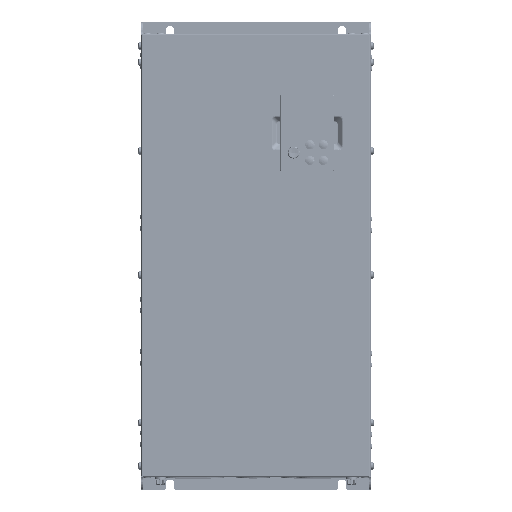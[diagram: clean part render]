
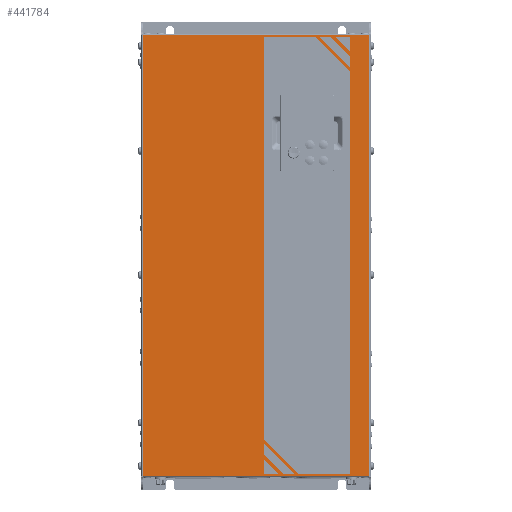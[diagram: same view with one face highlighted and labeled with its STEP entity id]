
A CAD part, top view. The second image highlights one B-rep face of the part: STEP entity #441784.
In plain terms, the highlighted planar face has unit normal (0, 0, 1).
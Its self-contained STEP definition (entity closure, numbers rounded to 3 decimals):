
#438517=DIRECTION('',(0.,-1.,0.));
#438518=VECTOR('',#438517,461.);
#438519=CARTESIAN_POINT('',(-118.8,0.5,257.));
#438520=LINE('',#438519,#438518);
#438831=DIRECTION('',(0.,-1.,0.));
#438832=VECTOR('',#438831,461.);
#438833=CARTESIAN_POINT('',(118.8,0.5,257.));
#438834=LINE('',#438833,#438832);
#438883=DIRECTION('',(-1.,0.,0.));
#438884=VECTOR('',#438883,237.6);
#438885=CARTESIAN_POINT('',(118.8,0.5,257.));
#438886=LINE('',#438885,#438884);
#438890=DIRECTION('',(-1.,0.,0.));
#438891=VECTOR('',#438890,237.6);
#438892=CARTESIAN_POINT('',(118.8,-460.5,257.));
#438893=LINE('',#438892,#438891);
#438897=DIRECTION('',(0.,-1.,0.));
#438898=VECTOR('',#438897,15.);
#438899=CARTESIAN_POINT('',(8.5,-443.5,257.));
#438900=LINE('',#438899,#438898);
#438904=DIRECTION('',(1.,0.,0.));
#438905=VECTOR('',#438904,15.);
#438906=CARTESIAN_POINT('',(8.5,-458.5,257.));
#438907=LINE('',#438906,#438905);
#438911=DIRECTION('',(-0.707,0.707,0.));
#438912=VECTOR('',#438911,21.213);
#438913=CARTESIAN_POINT('',(23.5,-458.5,257.));
#438914=LINE('',#438913,#438912);
#438918=DIRECTION('',(0.,1.,0.));
#438919=VECTOR('',#438918,15.);
#438920=CARTESIAN_POINT('',(98.5,-16.5,257.));
#438921=LINE('',#438920,#438919);
#438925=DIRECTION('',(-1.,0.,0.));
#438926=VECTOR('',#438925,15.);
#438927=CARTESIAN_POINT('',(98.5,-1.5,257.));
#438928=LINE('',#438927,#438926);
#438932=DIRECTION('',(0.707,-0.707,0.));
#438933=VECTOR('',#438932,21.213);
#438934=CARTESIAN_POINT('',(83.5,-1.5,257.));
#438935=LINE('',#438934,#438933);
#438939=DIRECTION('',(-0.707,0.707,0.));
#438940=VECTOR('',#438939,28.213);
#438941=CARTESIAN_POINT('',(98.5,-21.45,257.));
#438942=LINE('',#438941,#438940);
#438946=DIRECTION('',(-1.,0.,0.));
#438947=VECTOR('',#438946,11.314);
#438948=CARTESIAN_POINT('',(78.55,-1.5,257.));
#438949=LINE('',#438948,#438947);
#438953=DIRECTION('',(0.707,-0.707,0.));
#438954=VECTOR('',#438953,44.213);
#438955=CARTESIAN_POINT('',(67.237,-1.5,257.));
#438956=LINE('',#438955,#438954);
#438960=DIRECTION('',(0.,1.,0.));
#438961=VECTOR('',#438960,11.314);
#438962=CARTESIAN_POINT('',(98.5,-32.763,257.));
#438963=LINE('',#438962,#438961);
#438967=DIRECTION('',(-0.707,0.707,0.));
#438968=VECTOR('',#438967,51.213);
#438969=CARTESIAN_POINT('',(98.5,-37.713,257.));
#438970=LINE('',#438969,#438968);
#438974=DIRECTION('',(-1.,0.,0.));
#438975=VECTOR('',#438974,53.787);
#438976=CARTESIAN_POINT('',(62.287,-1.5,257.));
#438977=LINE('',#438976,#438975);
#438981=DIRECTION('',(0.,-1.,0.));
#438982=VECTOR('',#438981,420.787);
#438983=CARTESIAN_POINT('',(8.5,-1.5,257.));
#438984=LINE('',#438983,#438982);
#438988=DIRECTION('',(0.707,-0.707,0.));
#438989=VECTOR('',#438988,51.213);
#438990=CARTESIAN_POINT('',(8.5,-422.287,257.));
#438991=LINE('',#438990,#438989);
#438995=DIRECTION('',(1.,0.,0.));
#438996=VECTOR('',#438995,53.787);
#438997=CARTESIAN_POINT('',(44.713,-458.5,257.));
#438998=LINE('',#438997,#438996);
#439002=DIRECTION('',(0.,1.,0.));
#439003=VECTOR('',#439002,420.787);
#439004=CARTESIAN_POINT('',(98.5,-458.5,257.));
#439005=LINE('',#439004,#439003);
#439009=DIRECTION('',(0.707,-0.707,0.));
#439010=VECTOR('',#439009,28.213);
#439011=CARTESIAN_POINT('',(8.5,-438.55,257.));
#439012=LINE('',#439011,#439010);
#439016=DIRECTION('',(1.,0.,0.));
#439017=VECTOR('',#439016,11.314);
#439018=CARTESIAN_POINT('',(28.45,-458.5,257.));
#439019=LINE('',#439018,#439017);
#439023=DIRECTION('',(-0.707,0.707,0.));
#439024=VECTOR('',#439023,44.213);
#439025=CARTESIAN_POINT('',(39.763,-458.5,257.));
#439026=LINE('',#439025,#439024);
#439030=DIRECTION('',(0.,-1.,0.));
#439031=VECTOR('',#439030,11.314);
#439032=CARTESIAN_POINT('',(8.5,-427.237,257.));
#439033=LINE('',#439032,#439031);
#440757=CARTESIAN_POINT('',(118.8,-460.5,257.));
#440759=VERTEX_POINT('',#440757);
#440761=CARTESIAN_POINT('',(-118.8,-460.5,257.));
#440763=VERTEX_POINT('',#440761);
#440764=CARTESIAN_POINT('',(-118.8,0.5,257.));
#440765=VERTEX_POINT('',#440764);
#440766=CARTESIAN_POINT('',(118.8,0.5,257.));
#440767=VERTEX_POINT('',#440766);
#441028=CARTESIAN_POINT('',(8.5,-443.5,257.));
#441029=CARTESIAN_POINT('',(8.5,-458.5,257.));
#441030=VERTEX_POINT('',#441028);
#441031=VERTEX_POINT('',#441029);
#441032=CARTESIAN_POINT('',(98.5,-16.5,257.));
#441033=CARTESIAN_POINT('',(98.5,-1.5,257.));
#441034=VERTEX_POINT('',#441032);
#441035=VERTEX_POINT('',#441033);
#441068=CARTESIAN_POINT('',(83.5,-1.5,257.));
#441069=VERTEX_POINT('',#441068);
#441070=CARTESIAN_POINT('',(98.5,-21.45,257.));
#441071=CARTESIAN_POINT('',(78.55,-1.5,257.));
#441072=VERTEX_POINT('',#441070);
#441073=VERTEX_POINT('',#441071);
#441074=CARTESIAN_POINT('',(67.237,-1.5,257.));
#441075=VERTEX_POINT('',#441074);
#441076=CARTESIAN_POINT('',(98.5,-32.763,257.));
#441077=VERTEX_POINT('',#441076);
#441078=CARTESIAN_POINT('',(98.5,-37.713,257.));
#441079=CARTESIAN_POINT('',(62.287,-1.5,257.));
#441080=VERTEX_POINT('',#441078);
#441081=VERTEX_POINT('',#441079);
#441082=CARTESIAN_POINT('',(8.5,-1.5,257.));
#441083=VERTEX_POINT('',#441082);
#441084=CARTESIAN_POINT('',(8.5,-422.287,257.));
#441085=VERTEX_POINT('',#441084);
#441086=CARTESIAN_POINT('',(44.713,-458.5,257.));
#441087=VERTEX_POINT('',#441086);
#441088=CARTESIAN_POINT('',(98.5,-458.5,257.));
#441089=VERTEX_POINT('',#441088);
#441090=CARTESIAN_POINT('',(23.5,-458.5,257.));
#441091=VERTEX_POINT('',#441090);
#441092=CARTESIAN_POINT('',(8.5,-438.55,257.));
#441093=CARTESIAN_POINT('',(28.45,-458.5,257.));
#441094=VERTEX_POINT('',#441092);
#441095=VERTEX_POINT('',#441093);
#441096=CARTESIAN_POINT('',(39.763,-458.5,257.));
#441097=VERTEX_POINT('',#441096);
#441098=CARTESIAN_POINT('',(8.5,-427.237,257.));
#441099=VERTEX_POINT('',#441098);
#441722=CARTESIAN_POINT('',(-120.,1.7,257.));
#441723=DIRECTION('',(0.,0.,1.));
#441724=DIRECTION('',(0.,-1.,0.));
#441725=AXIS2_PLACEMENT_3D('',#441722,#441723,#441724);
#441726=PLANE('',#441725);
#441728=ORIENTED_EDGE('',*,*,#441727,.F.);
#441729=ORIENTED_EDGE('',*,*,#441663,.T.);
#441730=ORIENTED_EDGE('',*,*,#441714,.T.);
#441731=ORIENTED_EDGE('',*,*,#441480,.F.);
#441732=EDGE_LOOP('',(#441728,#441729,#441730,#441731));
#441733=FACE_OUTER_BOUND('',#441732,.F.);
#441735=ORIENTED_EDGE('',*,*,#441734,.T.);
#441737=ORIENTED_EDGE('',*,*,#441736,.T.);
#441739=ORIENTED_EDGE('',*,*,#441738,.T.);
#441740=EDGE_LOOP('',(#441735,#441737,#441739));
#441741=FACE_BOUND('',#441740,.F.);
#441743=ORIENTED_EDGE('',*,*,#441742,.T.);
#441745=ORIENTED_EDGE('',*,*,#441744,.T.);
#441747=ORIENTED_EDGE('',*,*,#441746,.T.);
#441748=EDGE_LOOP('',(#441743,#441745,#441747));
#441749=FACE_BOUND('',#441748,.F.);
#441751=ORIENTED_EDGE('',*,*,#441750,.T.);
#441753=ORIENTED_EDGE('',*,*,#441752,.T.);
#441755=ORIENTED_EDGE('',*,*,#441754,.T.);
#441757=ORIENTED_EDGE('',*,*,#441756,.T.);
#441758=EDGE_LOOP('',(#441751,#441753,#441755,#441757));
#441759=FACE_BOUND('',#441758,.F.);
#441761=ORIENTED_EDGE('',*,*,#441760,.T.);
#441763=ORIENTED_EDGE('',*,*,#441762,.T.);
#441765=ORIENTED_EDGE('',*,*,#441764,.T.);
#441767=ORIENTED_EDGE('',*,*,#441766,.T.);
#441769=ORIENTED_EDGE('',*,*,#441768,.T.);
#441771=ORIENTED_EDGE('',*,*,#441770,.T.);
#441772=EDGE_LOOP('',(#441761,#441763,#441765,#441767,#441769,#441771));
#441773=FACE_BOUND('',#441772,.F.);
#441775=ORIENTED_EDGE('',*,*,#441774,.T.);
#441777=ORIENTED_EDGE('',*,*,#441776,.T.);
#441779=ORIENTED_EDGE('',*,*,#441778,.T.);
#441781=ORIENTED_EDGE('',*,*,#441780,.T.);
#441782=EDGE_LOOP('',(#441775,#441777,#441779,#441781));
#441783=FACE_BOUND('',#441782,.F.);
#441784=ADVANCED_FACE('',(#441733,#441741,#441749,#441759,#441773,#441783),
#441726,.T.);
#441480=EDGE_CURVE('',#440765,#440763,#438520,.T.);
#441663=EDGE_CURVE('',#440767,#440759,#438834,.T.);
#441714=EDGE_CURVE('',#440759,#440763,#438893,.T.);
#441727=EDGE_CURVE('',#440767,#440765,#438886,.T.);
#441734=EDGE_CURVE('',#441030,#441031,#438900,.T.);
#441736=EDGE_CURVE('',#441031,#441091,#438907,.T.);
#441738=EDGE_CURVE('',#441091,#441030,#438914,.T.);
#441742=EDGE_CURVE('',#441034,#441035,#438921,.T.);
#441744=EDGE_CURVE('',#441035,#441069,#438928,.T.);
#441746=EDGE_CURVE('',#441069,#441034,#438935,.T.);
#441750=EDGE_CURVE('',#441072,#441073,#438942,.T.);
#441752=EDGE_CURVE('',#441073,#441075,#438949,.T.);
#441754=EDGE_CURVE('',#441075,#441077,#438956,.T.);
#441756=EDGE_CURVE('',#441077,#441072,#438963,.T.);
#441760=EDGE_CURVE('',#441080,#441081,#438970,.T.);
#441762=EDGE_CURVE('',#441081,#441083,#438977,.T.);
#441764=EDGE_CURVE('',#441083,#441085,#438984,.T.);
#441766=EDGE_CURVE('',#441085,#441087,#438991,.T.);
#441768=EDGE_CURVE('',#441087,#441089,#438998,.T.);
#441770=EDGE_CURVE('',#441089,#441080,#439005,.T.);
#441774=EDGE_CURVE('',#441094,#441095,#439012,.T.);
#441776=EDGE_CURVE('',#441095,#441097,#439019,.T.);
#441778=EDGE_CURVE('',#441097,#441099,#439026,.T.);
#441780=EDGE_CURVE('',#441099,#441094,#439033,.T.);
